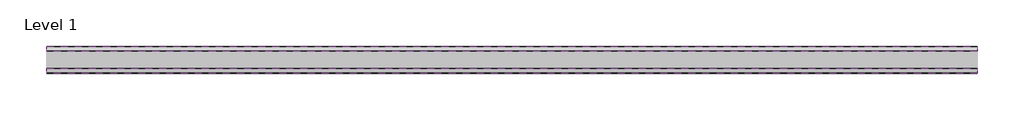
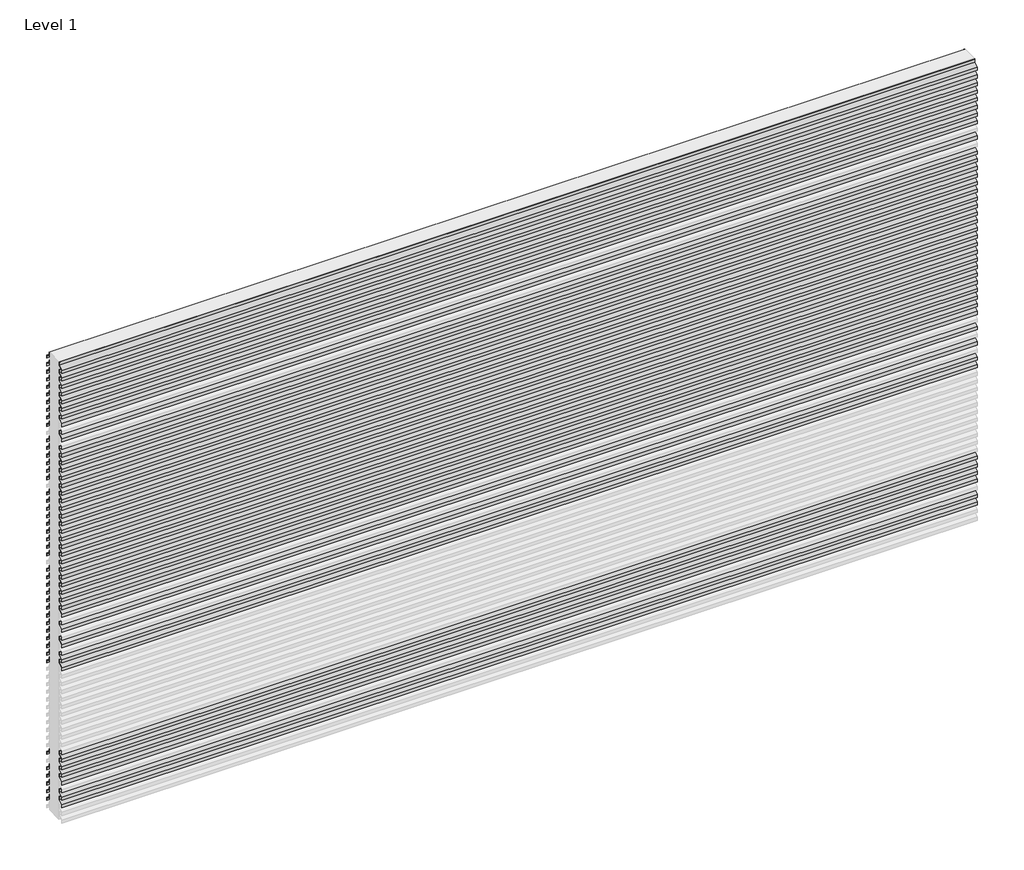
# One storey, part 39 of 47: 85 proxies.
"""IFC4 building model written with IfcOpenShell, lengths in millimetres."""

from ifc_helpers import new_model, si_unit, frame, origin, place, context, project, spatial, polyline, outline, extrude, element, save

model = new_model("IFC4")

# Units and contexts
model_context = context("Model", 3, world=origin())
ifc_project = project(units=[si_unit("LENGTHUNIT", "METRE", prefix="MILLI")], contexts=[model_context])

# Site, building, storey
site = spatial("IfcSite", under=ifc_project)
building = spatial("IfcBuilding", under=site)
storey = spatial("IfcBuildingStorey", under=building, Name="Level 1", Elevation=0.0)

# Proxies
placement = place(None, origin())
element("IfcBuildingElementProxy", 1, Name="Wall Sweeps", at=placement, inside=storey, context=model_context, shape_type="SweptSolid", body=[
    extrude(outline(polyline([(36266.8292826, 642.6), (36266.8292826, 629.1), (36265.5792826, 629.8216933), (36265.5792826, 641.8782281), (36246.4292826, 652.9345698), (36246.4292826, 666.6), (36247.6792826, 666.6), (36247.6792826, 653.6562577), (36266.8292826, 642.6)])), frame((205282.4238385, 0.0, 0.0), z_axis=(1.0, 0.0, 0.0), x_axis=(0.0, 1.0, 0.0)), (0.0, 0.0, 1.0), 3780.0),
])
element("IfcBuildingElementProxy", 2, Name="Wall Sweeps", at=placement, inside=storey, context=model_context, shape_type="SweptSolid", body=[
    extrude(outline(polyline([(36266.8292826, 42.7), (36266.8292826, 29.2), (36265.5792826, 29.9216933), (36265.5792826, 41.9782281), (36246.4292826, 53.0345698), (36246.4292826, 66.7), (36247.6792826, 66.7), (36247.6792826, 53.7562577), (36266.8292826, 42.7)])), frame((205282.4238385, 0.0, 0.0), z_axis=(1.0, 0.0, 0.0), x_axis=(0.0, 1.0, 0.0)), (0.0, 0.0, 1.0), 3780.0),
])
element("IfcBuildingElementProxy", 3, Name="Wall Sweeps", at=placement, inside=storey, context=model_context, shape_type="SweptSolid", body=[
    extrude(outline(polyline([(36156.8292826, 675.3), (36175.9792826, 686.3562577), (36175.9792826, 699.3), (36177.2292826, 699.3), (36177.2292826, 685.6345698), (36158.0792826, 674.5782281), (36158.0792826, 662.5216933), (36156.8292826, 661.8), (36156.8292826, 675.3)])), frame((205282.4238385, 0.0, 0.0), z_axis=(1.0, 0.0, 0.0), x_axis=(0.0, 1.0, 0.0)), (0.0, 0.0, 1.0), 3780.0),
])
element("IfcBuildingElementProxy", 4, Name="Wall Sweeps", at=placement, inside=storey, context=model_context, shape_type="SweptSolid", body=[
    extrude(outline(polyline([(36266.8292826, 675.9), (36266.8292826, 662.4), (36265.5792826, 663.1216933), (36265.5792826, 675.1782281), (36246.4292826, 686.2345698), (36246.4292826, 699.9), (36247.6792826, 699.9), (36247.6792826, 686.9562577), (36266.8292826, 675.9)])), frame((205282.4238385, 0.0, 0.0), z_axis=(1.0, 0.0, 0.0), x_axis=(0.0, 1.0, 0.0)), (0.0, 0.0, 1.0), 3780.0),
])
element("IfcBuildingElementProxy", 5, Name="Wall Sweeps", at=placement, inside=storey, context=model_context, shape_type="SweptSolid", body=[
    extrude(outline(polyline([(36156.8292826, 708.6), (36175.9792826, 719.6562577), (36175.9792826, 732.6), (36177.2292826, 732.6), (36177.2292826, 718.9345698), (36158.0792826, 707.8782281), (36158.0792826, 695.8216933), (36156.8292826, 695.1), (36156.8292826, 708.6)])), frame((205282.4238385, 0.0, 0.0), z_axis=(1.0, 0.0, 0.0), x_axis=(0.0, 1.0, 0.0)), (0.0, 0.0, 1.0), 3780.0),
])
element("IfcBuildingElementProxy", 6, Name="Wall Sweeps", at=placement, inside=storey, context=model_context, shape_type="SweptSolid", body=[
    extrude(outline(polyline([(36266.8292826, 709.3), (36266.8292826, 695.8), (36265.5792826, 696.5216933), (36265.5792826, 708.5782281), (36246.4292826, 719.6345698), (36246.4292826, 733.3), (36247.6792826, 733.3), (36247.6792826, 720.3562577), (36266.8292826, 709.3)])), frame((205282.4238385, 0.0, 0.0), z_axis=(1.0, 0.0, 0.0), x_axis=(0.0, 1.0, 0.0)), (0.0, 0.0, 1.0), 3780.0),
])
element("IfcBuildingElementProxy", 7, Name="Wall Sweeps", at=placement, inside=storey, context=model_context, shape_type="SweptSolid", body=[
    extrude(outline(polyline([(36266.8292826, 742.6), (36266.8292826, 729.1), (36265.5792826, 729.8216933), (36265.5792826, 741.8782281), (36246.4292826, 752.9345698), (36246.4292826, 766.6), (36247.6792826, 766.6), (36247.6792826, 753.6562577), (36266.8292826, 742.6)])), frame((205282.4238385, 0.0, 0.0), z_axis=(1.0, 0.0, 0.0), x_axis=(0.0, 1.0, 0.0)), (0.0, 0.0, 1.0), 3780.0),
])
element("IfcBuildingElementProxy", 8, Name="Wall Sweeps", at=placement, inside=storey, context=model_context, shape_type="SweptSolid", body=[
    extrude(outline(polyline([(36156.8292826, 775.2), (36175.9792826, 786.2562577), (36175.9792826, 799.2), (36177.2292826, 799.2), (36177.2292826, 785.5345698), (36158.0792826, 774.4782281), (36158.0792826, 762.4216933), (36156.8292826, 761.7), (36156.8292826, 775.2)])), frame((205282.4238385, 0.0, 0.0), z_axis=(1.0, 0.0, 0.0), x_axis=(0.0, 1.0, 0.0)), (0.0, 0.0, 1.0), 3780.0),
])
element("IfcBuildingElementProxy", 9, Name="Wall Sweeps", at=placement, inside=storey, context=model_context, shape_type="SweptSolid", body=[
    extrude(outline(polyline([(36266.8292826, 775.9), (36266.8292826, 762.4), (36265.5792826, 763.1216933), (36265.5792826, 775.1782281), (36246.4292826, 786.2345698), (36246.4292826, 799.9), (36247.6792826, 799.9), (36247.6792826, 786.9562577), (36266.8292826, 775.9)])), frame((205282.4238385, 0.0, 0.0), z_axis=(1.0, 0.0, 0.0), x_axis=(0.0, 1.0, 0.0)), (0.0, 0.0, 1.0), 3780.0),
])
element("IfcBuildingElementProxy", 10, Name="Wall Sweeps", at=placement, inside=storey, context=model_context, shape_type="SweptSolid", body=[
    extrude(outline(polyline([(36266.8292826, 809.3), (36266.8292826, 795.8), (36265.5792826, 796.5216933), (36265.5792826, 808.5782281), (36246.4292826, 819.6345698), (36246.4292826, 833.3), (36247.6792826, 833.3), (36247.6792826, 820.3562577), (36266.8292826, 809.3)])), frame((205282.4238385, 0.0, 0.0), z_axis=(1.0, 0.0, 0.0), x_axis=(0.0, 1.0, 0.0)), (0.0, 0.0, 1.0), 3780.0),
])
element("IfcBuildingElementProxy", 11, Name="Wall Sweeps", at=placement, inside=storey, context=model_context, shape_type="SweptSolid", body=[
    extrude(outline(polyline([(36156.8292826, 841.8), (36175.9792826, 852.8562577), (36175.9792826, 865.8), (36177.2292826, 865.8), (36177.2292826, 852.1345698), (36158.0792826, 841.0782281), (36158.0792826, 829.0216933), (36156.8292826, 828.3), (36156.8292826, 841.8)])), frame((205282.4238385, 0.0, 0.0), z_axis=(1.0, 0.0, 0.0), x_axis=(0.0, 1.0, 0.0)), (0.0, 0.0, 1.0), 3780.0),
])
element("IfcBuildingElementProxy", 12, Name="Wall Sweeps", at=placement, inside=storey, context=model_context, shape_type="SweptSolid", body=[
    extrude(outline(polyline([(36266.8292826, 842.6), (36266.8292826, 829.1), (36265.5792826, 829.8216933), (36265.5792826, 841.8782281), (36246.4292826, 852.9345698), (36246.4292826, 866.6), (36247.6792826, 866.6), (36247.6792826, 853.6562577), (36266.8292826, 842.6)])), frame((205282.4238385, 0.0, 0.0), z_axis=(1.0, 0.0, 0.0), x_axis=(0.0, 1.0, 0.0)), (0.0, 0.0, 1.0), 3780.0),
])
element("IfcBuildingElementProxy", 13, Name="Wall Sweeps", at=placement, inside=storey, context=model_context, shape_type="SweptSolid", body=[
    extrude(outline(polyline([(36266.8292826, 875.9), (36266.8292826, 862.4), (36265.5792826, 863.1216933), (36265.5792826, 875.1782281), (36246.4292826, 886.2345698), (36246.4292826, 899.9), (36247.6792826, 899.9), (36247.6792826, 886.9562577), (36266.8292826, 875.9)])), frame((205282.4238385, 0.0, 0.0), z_axis=(1.0, 0.0, 0.0), x_axis=(0.0, 1.0, 0.0)), (0.0, 0.0, 1.0), 3780.0),
])
element("IfcBuildingElementProxy", 14, Name="Wall Sweeps", at=placement, inside=storey, context=model_context, shape_type="SweptSolid", body=[
    extrude(outline(polyline([(36156.8292826, 908.4), (36175.9792826, 919.4562577), (36175.9792826, 932.4), (36177.2292826, 932.4), (36177.2292826, 918.7345698), (36158.0792826, 907.6782281), (36158.0792826, 895.6216933), (36156.8292826, 894.9), (36156.8292826, 908.4)])), frame((205282.4238385, 0.0, 0.0), z_axis=(1.0, 0.0, 0.0), x_axis=(0.0, 1.0, 0.0)), (0.0, 0.0, 1.0), 3780.0),
])
element("IfcBuildingElementProxy", 15, Name="Wall Sweeps", at=placement, inside=storey, context=model_context, shape_type="SweptSolid", body=[
    extrude(outline(polyline([(36266.8292826, 909.2), (36266.8292826, 895.7), (36265.5792826, 896.4216933), (36265.5792826, 908.4782281), (36246.4292826, 919.5345698), (36246.4292826, 933.2), (36247.6792826, 933.2), (36247.6792826, 920.2562577), (36266.8292826, 909.2)])), frame((205282.4238385, 0.0, 0.0), z_axis=(1.0, 0.0, 0.0), x_axis=(0.0, 1.0, 0.0)), (0.0, 0.0, 1.0), 3780.0),
])
element("IfcBuildingElementProxy", 16, Name="Wall Sweeps", at=placement, inside=storey, context=model_context, shape_type="SweptSolid", body=[
    extrude(outline(polyline([(36156.8292826, 941.7), (36175.9792826, 952.7562577), (36175.9792826, 965.7), (36177.2292826, 965.7), (36177.2292826, 952.0345698), (36158.0792826, 940.9782281), (36158.0792826, 928.9216933), (36156.8292826, 928.2), (36156.8292826, 941.7)])), frame((205282.4238385, 0.0, 0.0), z_axis=(1.0, 0.0, 0.0), x_axis=(0.0, 1.0, 0.0)), (0.0, 0.0, 1.0), 3780.0),
])
element("IfcBuildingElementProxy", 17, Name="Wall Sweeps", at=placement, inside=storey, context=model_context, shape_type="SweptSolid", body=[
    extrude(outline(polyline([(36266.8292826, 942.6), (36266.8292826, 929.1), (36265.5792826, 929.8216933), (36265.5792826, 941.8782281), (36246.4292826, 952.9345698), (36246.4292826, 966.6), (36247.6792826, 966.6), (36247.6792826, 953.6562577), (36266.8292826, 942.6)])), frame((205282.4238385, 0.0, 0.0), z_axis=(1.0, 0.0, 0.0), x_axis=(0.0, 1.0, 0.0)), (0.0, 0.0, 1.0), 3780.0),
])
element("IfcBuildingElementProxy", 18, Name="Wall Sweeps", at=placement, inside=storey, context=model_context, shape_type="SweptSolid", body=[
    extrude(outline(polyline([(36156.8292826, 975.0), (36175.9792826, 986.0562577), (36175.9792826, 999.0), (36177.2292826, 999.0), (36177.2292826, 985.3345698), (36158.0792826, 974.2782281), (36158.0792826, 962.2216933), (36156.8292826, 961.5), (36156.8292826, 975.0)])), frame((205282.4238385, 0.0, 0.0), z_axis=(1.0, 0.0, 0.0), x_axis=(0.0, 1.0, 0.0)), (0.0, 0.0, 1.0), 3780.0),
])
element("IfcBuildingElementProxy", 19, Name="Wall Sweeps", at=placement, inside=storey, context=model_context, shape_type="SweptSolid", body=[
    extrude(outline(polyline([(36266.8292826, 975.9), (36266.8292826, 962.4), (36265.5792826, 963.1216933), (36265.5792826, 975.1782281), (36246.4292826, 986.2345698), (36246.4292826, 999.9), (36247.6792826, 999.9), (36247.6792826, 986.9562577), (36266.8292826, 975.9)])), frame((205282.4238385, 0.0, 0.0), z_axis=(1.0, 0.0, 0.0), x_axis=(0.0, 1.0, 0.0)), (0.0, 0.0, 1.0), 3780.0),
])
element("IfcBuildingElementProxy", 20, Name="Wall Sweeps", at=placement, inside=storey, context=model_context, shape_type="SweptSolid", body=[
    extrude(outline(polyline([(36156.8292826, 76.0), (36175.9792826, 87.0562577), (36175.9792826, 100.0), (36177.2292826, 100.0), (36177.2292826, 86.3345698), (36158.0792826, 75.2782281), (36158.0792826, 63.2216933), (36156.8292826, 62.5), (36156.8292826, 76.0)])), frame((205282.4238385, 0.0, 0.0), z_axis=(1.0, 0.0, 0.0), x_axis=(0.0, 1.0, 0.0)), (0.0, 0.0, 1.0), 3780.0),
])
element("IfcBuildingElementProxy", 21, Name="Wall Sweeps", at=placement, inside=storey, context=model_context, shape_type="SweptSolid", body=[
    extrude(outline(polyline([(36266.8292826, 76.0), (36266.8292826, 62.5), (36265.5792826, 63.2216933), (36265.5792826, 75.2782281), (36246.4292826, 86.3345698), (36246.4292826, 100.0), (36247.6792826, 100.0), (36247.6792826, 87.0562577), (36266.8292826, 76.0)])), frame((205282.4238385, 0.0, 0.0), z_axis=(1.0, 0.0, 0.0), x_axis=(0.0, 1.0, 0.0)), (0.0, 0.0, 1.0), 3780.0),
])
element("IfcBuildingElementProxy", 22, Name="Wall Sweeps", at=placement, inside=storey, context=model_context, shape_type="SweptSolid", body=[
    extrude(outline(polyline([(36156.8292826, 1008.3), (36175.9792826, 1019.3562577), (36175.9792826, 1032.3), (36177.2292826, 1032.3), (36177.2292826, 1018.6345698), (36158.0792826, 1007.5782281), (36158.0792826, 995.5216933), (36156.8292826, 994.8), (36156.8292826, 1008.3)])), frame((205282.4238385, 0.0, 0.0), z_axis=(1.0, 0.0, 0.0), x_axis=(0.0, 1.0, 0.0)), (0.0, 0.0, 1.0), 3780.0),
])
element("IfcBuildingElementProxy", 23, Name="Wall Sweeps", at=placement, inside=storey, context=model_context, shape_type="SweptSolid", body=[
    extrude(outline(polyline([(36266.8292826, 1009.2), (36266.8292826, 995.7), (36265.5792826, 996.4216933), (36265.5792826, 1008.4782281), (36246.4292826, 1019.5345698), (36246.4292826, 1033.2), (36247.6792826, 1033.2), (36247.6792826, 1020.2562577), (36266.8292826, 1009.2)])), frame((205282.4238385, 0.0, 0.0), z_axis=(1.0, 0.0, 0.0), x_axis=(0.0, 1.0, 0.0)), (0.0, 0.0, 1.0), 3780.0),
])
element("IfcBuildingElementProxy", 24, Name="Wall Sweeps", at=placement, inside=storey, context=model_context, shape_type="SweptSolid", body=[
    extrude(outline(polyline([(36156.8292826, 1041.6), (36175.9792826, 1052.6562577), (36175.9792826, 1065.6), (36177.2292826, 1065.6), (36177.2292826, 1051.9345698), (36158.0792826, 1040.8782281), (36158.0792826, 1028.8216933), (36156.8292826, 1028.1), (36156.8292826, 1041.6)])), frame((205282.4238385, 0.0, 0.0), z_axis=(1.0, 0.0, 0.0), x_axis=(0.0, 1.0, 0.0)), (0.0, 0.0, 1.0), 3780.0),
])
element("IfcBuildingElementProxy", 25, Name="Wall Sweeps", at=placement, inside=storey, context=model_context, shape_type="SweptSolid", body=[
    extrude(outline(polyline([(36266.8292826, 1042.6), (36266.8292826, 1029.1), (36265.5792826, 1029.8216933), (36265.5792826, 1041.8782281), (36246.4292826, 1052.9345698), (36246.4292826, 1066.6), (36247.6792826, 1066.6), (36247.6792826, 1053.6562577), (36266.8292826, 1042.6)])), frame((205282.4238385, 0.0, 0.0), z_axis=(1.0, 0.0, 0.0), x_axis=(0.0, 1.0, 0.0)), (0.0, 0.0, 1.0), 3780.0),
])
element("IfcBuildingElementProxy", 26, Name="Wall Sweeps", at=placement, inside=storey, context=model_context, shape_type="SweptSolid", body=[
    extrude(outline(polyline([(36156.8292826, 1074.9), (36175.9792826, 1085.9562577), (36175.9792826, 1098.9), (36177.2292826, 1098.9), (36177.2292826, 1085.2345698), (36158.0792826, 1074.1782281), (36158.0792826, 1062.1216933), (36156.8292826, 1061.4), (36156.8292826, 1074.9)])), frame((205282.4238385, 0.0, 0.0), z_axis=(1.0, 0.0, 0.0), x_axis=(0.0, 1.0, 0.0)), (0.0, 0.0, 1.0), 3780.0),
])
element("IfcBuildingElementProxy", 27, Name="Wall Sweeps", at=placement, inside=storey, context=model_context, shape_type="SweptSolid", body=[
    extrude(outline(polyline([(36156.8292826, 1108.2), (36175.9792826, 1119.2562577), (36175.9792826, 1132.2), (36177.2292826, 1132.2), (36177.2292826, 1118.5345698), (36158.0792826, 1107.4782281), (36158.0792826, 1095.4216933), (36156.8292826, 1094.7), (36156.8292826, 1108.2)])), frame((205282.4238385, 0.0, 0.0), z_axis=(1.0, 0.0, 0.0), x_axis=(0.0, 1.0, 0.0)), (0.0, 0.0, 1.0), 3780.0),
])
element("IfcBuildingElementProxy", 28, Name="Wall Sweeps", at=placement, inside=storey, context=model_context, shape_type="SweptSolid", body=[
    extrude(outline(polyline([(36266.8292826, 1109.2), (36266.8292826, 1095.7), (36265.5792826, 1096.4216933), (36265.5792826, 1108.4782281), (36246.4292826, 1119.5345698), (36246.4292826, 1133.2), (36247.6792826, 1133.2), (36247.6792826, 1120.2562577), (36266.8292826, 1109.2)])), frame((205282.4238385, 0.0, 0.0), z_axis=(1.0, 0.0, 0.0), x_axis=(0.0, 1.0, 0.0)), (0.0, 0.0, 1.0), 3780.0),
])
element("IfcBuildingElementProxy", 29, Name="Wall Sweeps", at=placement, inside=storey, context=model_context, shape_type="SweptSolid", body=[
    extrude(outline(polyline([(36156.8292826, 1141.5), (36175.9792826, 1152.5562577), (36175.9792826, 1165.5), (36177.2292826, 1165.5), (36177.2292826, 1151.8345698), (36158.0792826, 1140.7782281), (36158.0792826, 1128.7216933), (36156.8292826, 1128.0), (36156.8292826, 1141.5)])), frame((205282.4238385, 0.0, 0.0), z_axis=(1.0, 0.0, 0.0), x_axis=(0.0, 1.0, 0.0)), (0.0, 0.0, 1.0), 3780.0),
])
element("IfcBuildingElementProxy", 30, Name="Wall Sweeps", at=placement, inside=storey, context=model_context, shape_type="SweptSolid", body=[
    extrude(outline(polyline([(36266.8292826, 1142.6), (36266.8292826, 1129.1), (36265.5792826, 1129.8216933), (36265.5792826, 1141.8782281), (36246.4292826, 1152.9345698), (36246.4292826, 1166.6), (36247.6792826, 1166.6), (36247.6792826, 1153.6562577), (36266.8292826, 1142.6)])), frame((205282.4238385, 0.0, 0.0), z_axis=(1.0, 0.0, 0.0), x_axis=(0.0, 1.0, 0.0)), (0.0, 0.0, 1.0), 3780.0),
])
element("IfcBuildingElementProxy", 31, Name="Wall Sweeps", at=placement, inside=storey, context=model_context, shape_type="SweptSolid", body=[
    extrude(outline(polyline([(36156.8292826, 1174.8), (36175.9792826, 1185.8562577), (36175.9792826, 1198.8), (36177.2292826, 1198.8), (36177.2292826, 1185.1345698), (36158.0792826, 1174.0782281), (36158.0792826, 1162.0216933), (36156.8292826, 1161.3), (36156.8292826, 1174.8)])), frame((205282.4238385, 0.0, 0.0), z_axis=(1.0, 0.0, 0.0), x_axis=(0.0, 1.0, 0.0)), (0.0, 0.0, 1.0), 3780.0),
])
element("IfcBuildingElementProxy", 32, Name="Wall Sweeps", at=placement, inside=storey, context=model_context, shape_type="SweptSolid", body=[
    extrude(outline(polyline([(36266.8292826, 1175.9), (36266.8292826, 1162.4), (36265.5792826, 1163.1216933), (36265.5792826, 1175.1782281), (36246.4292826, 1186.2345698), (36246.4292826, 1199.9), (36247.6792826, 1199.9), (36247.6792826, 1186.9562577), (36266.8292826, 1175.9)])), frame((205282.4238385, 0.0, 0.0), z_axis=(1.0, 0.0, 0.0), x_axis=(0.0, 1.0, 0.0)), (0.0, 0.0, 1.0), 3780.0),
])
element("IfcBuildingElementProxy", 33, Name="Wall Sweeps", at=placement, inside=storey, context=model_context, shape_type="SweptSolid", body=[
    extrude(outline(polyline([(36156.8292826, 1208.1), (36175.9792826, 1219.1562577), (36175.9792826, 1232.1), (36177.2292826, 1232.1), (36177.2292826, 1218.4345698), (36158.0792826, 1207.3782281), (36158.0792826, 1195.3216933), (36156.8292826, 1194.6), (36156.8292826, 1208.1)])), frame((205282.4238385, 0.0, 0.0), z_axis=(1.0, 0.0, 0.0), x_axis=(0.0, 1.0, 0.0)), (0.0, 0.0, 1.0), 3780.0),
])
element("IfcBuildingElementProxy", 34, Name="Wall Sweeps", at=placement, inside=storey, context=model_context, shape_type="SweptSolid", body=[
    extrude(outline(polyline([(36266.8292826, 1209.2), (36266.8292826, 1195.7), (36265.5792826, 1196.4216933), (36265.5792826, 1208.4782281), (36246.4292826, 1219.5345698), (36246.4292826, 1233.2), (36247.6792826, 1233.2), (36247.6792826, 1220.2562577), (36266.8292826, 1209.2)])), frame((205282.4238385, 0.0, 0.0), z_axis=(1.0, 0.0, 0.0), x_axis=(0.0, 1.0, 0.0)), (0.0, 0.0, 1.0), 3780.0),
])
element("IfcBuildingElementProxy", 35, Name="Wall Sweeps", at=placement, inside=storey, context=model_context, shape_type="SweptSolid", body=[
    extrude(outline(polyline([(36156.8292826, 1241.4), (36175.9792826, 1252.4562577), (36175.9792826, 1265.4), (36177.2292826, 1265.4), (36177.2292826, 1251.7345698), (36158.0792826, 1240.6782281), (36158.0792826, 1228.6216933), (36156.8292826, 1227.9), (36156.8292826, 1241.4)])), frame((205282.4238385, 0.0, 0.0), z_axis=(1.0, 0.0, 0.0), x_axis=(0.0, 1.0, 0.0)), (0.0, 0.0, 1.0), 3780.0),
])
element("IfcBuildingElementProxy", 36, Name="Wall Sweeps", at=placement, inside=storey, context=model_context, shape_type="SweptSolid", body=[
    extrude(outline(polyline([(36266.8292826, 1242.5), (36266.8292826, 1229.0), (36265.5792826, 1229.7216933), (36265.5792826, 1241.7782281), (36246.4292826, 1252.8345698), (36246.4292826, 1266.5), (36247.6792826, 1266.5), (36247.6792826, 1253.5562577), (36266.8292826, 1242.5)])), frame((205282.4238385, 0.0, 0.0), z_axis=(1.0, 0.0, 0.0), x_axis=(0.0, 1.0, 0.0)), (0.0, 0.0, 1.0), 3780.0),
])
element("IfcBuildingElementProxy", 37, Name="Wall Sweeps", at=placement, inside=storey, context=model_context, shape_type="SweptSolid", body=[
    extrude(outline(polyline([(36156.8292826, 1274.7), (36175.9792826, 1285.7562577), (36175.9792826, 1298.7), (36177.2292826, 1298.7), (36177.2292826, 1285.0345698), (36158.0792826, 1273.9782281), (36158.0792826, 1261.9216933), (36156.8292826, 1261.2), (36156.8292826, 1274.7)])), frame((205282.4238385, 0.0, 0.0), z_axis=(1.0, 0.0, 0.0), x_axis=(0.0, 1.0, 0.0)), (0.0, 0.0, 1.0), 3780.0),
])
element("IfcBuildingElementProxy", 38, Name="Wall Sweeps", at=placement, inside=storey, context=model_context, shape_type="SweptSolid", body=[
    extrude(outline(polyline([(36266.8292826, 1275.9), (36266.8292826, 1262.4), (36265.5792826, 1263.1216933), (36265.5792826, 1275.1782281), (36246.4292826, 1286.2345698), (36246.4292826, 1299.9), (36247.6792826, 1299.9), (36247.6792826, 1286.9562577), (36266.8292826, 1275.9)])), frame((205282.4238385, 0.0, 0.0), z_axis=(1.0, 0.0, 0.0), x_axis=(0.0, 1.0, 0.0)), (0.0, 0.0, 1.0), 3780.0),
])
element("IfcBuildingElementProxy", 39, Name="Wall Sweeps", at=placement, inside=storey, context=model_context, shape_type="SweptSolid", body=[
    extrude(outline(polyline([(36156.8292826, 1308.0), (36175.9792826, 1319.0562577), (36175.9792826, 1332.0), (36177.2292826, 1332.0), (36177.2292826, 1318.3345698), (36158.0792826, 1307.2782281), (36158.0792826, 1295.2216933), (36156.8292826, 1294.5), (36156.8292826, 1308.0)])), frame((205282.4238385, 0.0, 0.0), z_axis=(1.0, 0.0, 0.0), x_axis=(0.0, 1.0, 0.0)), (0.0, 0.0, 1.0), 3780.0),
])
element("IfcBuildingElementProxy", 40, Name="Wall Sweeps", at=placement, inside=storey, context=model_context, shape_type="SweptSolid", body=[
    extrude(outline(polyline([(36156.8292826, 109.2), (36175.9792826, 120.2562577), (36175.9792826, 133.2), (36177.2292826, 133.2), (36177.2292826, 119.5345698), (36158.0792826, 108.4782281), (36158.0792826, 96.4216933), (36156.8292826, 95.7), (36156.8292826, 109.2)])), frame((205282.4238385, 0.0, 0.0), z_axis=(1.0, 0.0, 0.0), x_axis=(0.0, 1.0, 0.0)), (0.0, 0.0, 1.0), 3780.0),
])
element("IfcBuildingElementProxy", 41, Name="Wall Sweeps", at=placement, inside=storey, context=model_context, shape_type="SweptSolid", body=[
    extrude(outline(polyline([(36266.8292826, 109.3), (36266.8292826, 95.8), (36265.5792826, 96.5216933), (36265.5792826, 108.5782281), (36246.4292826, 119.6345698), (36246.4292826, 133.3), (36247.6792826, 133.3), (36247.6792826, 120.3562577), (36266.8292826, 109.3)])), frame((205282.4238385, 0.0, 0.0), z_axis=(1.0, 0.0, 0.0), x_axis=(0.0, 1.0, 0.0)), (0.0, 0.0, 1.0), 3780.0),
])
element("IfcBuildingElementProxy", 42, Name="Wall Sweeps", at=placement, inside=storey, context=model_context, shape_type="SweptSolid", body=[
    extrude(outline(polyline([(36266.8292826, 1309.2), (36266.8292826, 1295.7), (36265.5792826, 1296.4216933), (36265.5792826, 1308.4782281), (36246.4292826, 1319.5345698), (36246.4292826, 1333.2), (36247.6792826, 1333.2), (36247.6792826, 1320.2562577), (36266.8292826, 1309.2)])), frame((205282.4238385, 0.0, 0.0), z_axis=(1.0, 0.0, 0.0), x_axis=(0.0, 1.0, 0.0)), (0.0, 0.0, 1.0), 3780.0),
])
element("IfcBuildingElementProxy", 43, Name="Wall Sweeps", at=placement, inside=storey, context=model_context, shape_type="SweptSolid", body=[
    extrude(outline(polyline([(36156.8292826, 1341.3), (36175.9792826, 1352.3562577), (36175.9792826, 1365.3), (36177.2292826, 1365.3), (36177.2292826, 1351.6345698), (36158.0792826, 1340.5782281), (36158.0792826, 1328.5216933), (36156.8292826, 1327.8), (36156.8292826, 1341.3)])), frame((205282.4238385, 0.0, 0.0), z_axis=(1.0, 0.0, 0.0), x_axis=(0.0, 1.0, 0.0)), (0.0, 0.0, 1.0), 3780.0),
])
element("IfcBuildingElementProxy", 44, Name="Wall Sweeps", at=placement, inside=storey, context=model_context, shape_type="SweptSolid", body=[
    extrude(outline(polyline([(36266.8292826, 1342.5), (36266.8292826, 1329.0), (36265.5792826, 1329.7216933), (36265.5792826, 1341.7782281), (36246.4292826, 1352.8345698), (36246.4292826, 1366.5), (36247.6792826, 1366.5), (36247.6792826, 1353.5562577), (36266.8292826, 1342.5)])), frame((205282.4238385, 0.0, 0.0), z_axis=(1.0, 0.0, 0.0), x_axis=(0.0, 1.0, 0.0)), (0.0, 0.0, 1.0), 3780.0),
])
element("IfcBuildingElementProxy", 45, Name="Wall Sweeps", at=placement, inside=storey, context=model_context, shape_type="SweptSolid", body=[
    extrude(outline(polyline([(36156.8292826, 1374.6), (36175.9792826, 1385.6562577), (36175.9792826, 1398.6), (36177.2292826, 1398.6), (36177.2292826, 1384.9345698), (36158.0792826, 1373.8782281), (36158.0792826, 1361.8216933), (36156.8292826, 1361.1), (36156.8292826, 1374.6)])), frame((205282.4238385, 0.0, 0.0), z_axis=(1.0, 0.0, 0.0), x_axis=(0.0, 1.0, 0.0)), (0.0, 0.0, 1.0), 3780.0),
])
element("IfcBuildingElementProxy", 46, Name="Wall Sweeps", at=placement, inside=storey, context=model_context, shape_type="SweptSolid", body=[
    extrude(outline(polyline([(36266.8292826, 1375.9), (36266.8292826, 1362.4), (36265.5792826, 1363.1216933), (36265.5792826, 1375.1782281), (36246.4292826, 1386.2345698), (36246.4292826, 1399.9), (36247.6792826, 1399.9), (36247.6792826, 1386.9562577), (36266.8292826, 1375.9)])), frame((205282.4238385, 0.0, 0.0), z_axis=(1.0, 0.0, 0.0), x_axis=(0.0, 1.0, 0.0)), (0.0, 0.0, 1.0), 3780.0),
])
element("IfcBuildingElementProxy", 47, Name="Wall Sweeps", at=placement, inside=storey, context=model_context, shape_type="SweptSolid", body=[
    extrude(outline(polyline([(36156.8292826, 1407.9), (36175.9792826, 1418.9562577), (36175.9792826, 1431.9), (36177.2292826, 1431.9), (36177.2292826, 1418.2345698), (36158.0792826, 1407.1782281), (36158.0792826, 1395.1216933), (36156.8292826, 1394.4), (36156.8292826, 1407.9)])), frame((205282.4238385, 0.0, 0.0), z_axis=(1.0, 0.0, 0.0), x_axis=(0.0, 1.0, 0.0)), (0.0, 0.0, 1.0), 3780.0),
])
element("IfcBuildingElementProxy", 48, Name="Wall Sweeps", at=placement, inside=storey, context=model_context, shape_type="SweptSolid", body=[
    extrude(outline(polyline([(36156.8292826, 1441.2), (36175.9792826, 1452.2562577), (36175.9792826, 1465.2), (36177.2292826, 1465.2), (36177.2292826, 1451.5345698), (36158.0792826, 1440.4782281), (36158.0792826, 1428.4216933), (36156.8292826, 1427.7), (36156.8292826, 1441.2)])), frame((205282.4238385, 0.0, 0.0), z_axis=(1.0, 0.0, 0.0), x_axis=(0.0, 1.0, 0.0)), (0.0, 0.0, 1.0), 3780.0),
])
element("IfcBuildingElementProxy", 49, Name="Wall Sweeps", at=placement, inside=storey, context=model_context, shape_type="SweptSolid", body=[
    extrude(outline(polyline([(36266.8292826, 1442.5), (36266.8292826, 1429.0), (36265.5792826, 1429.7216933), (36265.5792826, 1441.7782281), (36246.4292826, 1452.8345698), (36246.4292826, 1466.5), (36247.6792826, 1466.5), (36247.6792826, 1453.5562577), (36266.8292826, 1442.5)])), frame((205282.4238385, 0.0, 0.0), z_axis=(1.0, 0.0, 0.0), x_axis=(0.0, 1.0, 0.0)), (0.0, 0.0, 1.0), 3780.0),
])
element("IfcBuildingElementProxy", 50, Name="Wall Sweeps", at=placement, inside=storey, context=model_context, shape_type="SweptSolid", body=[
    extrude(outline(polyline([(36156.8292826, 1474.5), (36175.9792826, 1485.5562577), (36175.9792826, 1498.5), (36177.2292826, 1498.5), (36177.2292826, 1484.8345698), (36158.0792826, 1473.7782281), (36158.0792826, 1461.7216933), (36156.8292826, 1461.0), (36156.8292826, 1474.5)])), frame((205282.4238385, 0.0, 0.0), z_axis=(1.0, 0.0, 0.0), x_axis=(0.0, 1.0, 0.0)), (0.0, 0.0, 1.0), 3780.0),
])
element("IfcBuildingElementProxy", 51, Name="Wall Sweeps", at=placement, inside=storey, context=model_context, shape_type="SweptSolid", body=[
    extrude(outline(polyline([(36266.8292826, 1474.5), (36266.8292826, 1461.0), (36265.5792826, 1461.7216933), (36265.5792826, 1473.7782281), (36246.4292826, 1484.8345698), (36246.4292826, 1498.5), (36247.6792826, 1498.5), (36247.6792826, 1485.5562577), (36266.8292826, 1474.5)])), frame((205282.4238385, 0.0, 0.0), z_axis=(1.0, 0.0, 0.0), x_axis=(0.0, 1.0, 0.0)), (0.0, 0.0, 1.0), 3780.0),
])
element("IfcBuildingElementProxy", 52, Name="Wall Sweeps", at=placement, inside=storey, context=model_context, shape_type="SweptSolid", body=[
    extrude(outline(polyline([(36156.8292826, 1507.8), (36175.9792826, 1518.8562577), (36175.9792826, 1531.8), (36177.2292826, 1531.8), (36177.2292826, 1518.1345698), (36158.0792826, 1507.0782281), (36158.0792826, 1495.0216933), (36156.8292826, 1494.3), (36156.8292826, 1507.8)])), frame((205282.4238385, 0.0, 0.0), z_axis=(1.0, 0.0, 0.0), x_axis=(0.0, 1.0, 0.0)), (0.0, 0.0, 1.0), 3780.0),
])
element("IfcBuildingElementProxy", 53, Name="Wall Sweeps", at=placement, inside=storey, context=model_context, shape_type="SweptSolid", body=[
    extrude(outline(polyline([(36266.8292826, 1507.8), (36266.8292826, 1494.3), (36265.5792826, 1495.0216933), (36265.5792826, 1507.0782281), (36246.4292826, 1518.1345698), (36246.4292826, 1531.8), (36247.6792826, 1531.8), (36247.6792826, 1518.8562577), (36266.8292826, 1507.8)])), frame((205282.4238385, 0.0, 0.0), z_axis=(1.0, 0.0, 0.0), x_axis=(0.0, 1.0, 0.0)), (0.0, 0.0, 1.0), 3780.0),
])
element("IfcBuildingElementProxy", 54, Name="Wall Sweeps", at=placement, inside=storey, context=model_context, shape_type="SweptSolid", body=[
    extrude(outline(polyline([(36156.8292826, 1541.1), (36175.9792826, 1552.1562577), (36175.9792826, 1565.1), (36177.2292826, 1565.1), (36177.2292826, 1551.4345698), (36158.0792826, 1540.3782281), (36158.0792826, 1528.3216933), (36156.8292826, 1527.6), (36156.8292826, 1541.1)])), frame((205282.4238385, 0.0, 0.0), z_axis=(1.0, 0.0, 0.0), x_axis=(0.0, 1.0, 0.0)), (0.0, 0.0, 1.0), 3780.0),
])
element("IfcBuildingElementProxy", 55, Name="Wall Sweeps", at=placement, inside=storey, context=model_context, shape_type="SweptSolid", body=[
    extrude(outline(polyline([(36266.8292826, 1541.1), (36266.8292826, 1527.6), (36265.5792826, 1528.3216933), (36265.5792826, 1540.3782281), (36246.4292826, 1551.4345698), (36246.4292826, 1565.1), (36247.6792826, 1565.1), (36247.6792826, 1552.1562577), (36266.8292826, 1541.1)])), frame((205282.4238385, 0.0, 0.0), z_axis=(1.0, 0.0, 0.0), x_axis=(0.0, 1.0, 0.0)), (0.0, 0.0, 1.0), 3780.0),
])
element("IfcBuildingElementProxy", 56, Name="Wall Sweeps", at=placement, inside=storey, context=model_context, shape_type="SweptSolid", body=[
    extrude(outline(polyline([(36156.8292826, 1574.4), (36175.9792826, 1585.4562577), (36175.9792826, 1598.4), (36177.2292826, 1598.4), (36177.2292826, 1584.7345698), (36158.0792826, 1573.6782281), (36158.0792826, 1561.6216933), (36156.8292826, 1560.9), (36156.8292826, 1574.4)])), frame((205282.4238385, 0.0, 0.0), z_axis=(1.0, 0.0, 0.0), x_axis=(0.0, 1.0, 0.0)), (0.0, 0.0, 1.0), 3780.0),
])
element("IfcBuildingElementProxy", 57, Name="Wall Sweeps", at=placement, inside=storey, context=model_context, shape_type="SweptSolid", body=[
    extrude(outline(polyline([(36266.8292826, 1574.4), (36266.8292826, 1560.9), (36265.5792826, 1561.6216933), (36265.5792826, 1573.6782281), (36246.4292826, 1584.7345698), (36246.4292826, 1598.4), (36247.6792826, 1598.4), (36247.6792826, 1585.4562577), (36266.8292826, 1574.4)])), frame((205282.4238385, 0.0, 0.0), z_axis=(1.0, 0.0, 0.0), x_axis=(0.0, 1.0, 0.0)), (0.0, 0.0, 1.0), 3780.0),
])
element("IfcBuildingElementProxy", 58, Name="Wall Sweeps", at=placement, inside=storey, context=model_context, shape_type="SweptSolid", body=[
    extrude(outline(polyline([(36156.8292826, 1607.7), (36175.9792826, 1618.7562577), (36175.9792826, 1631.7), (36177.2292826, 1631.7), (36177.2292826, 1618.0345698), (36158.0792826, 1606.9782281), (36158.0792826, 1594.9216933), (36156.8292826, 1594.2), (36156.8292826, 1607.7)])), frame((205282.4238385, 0.0, 0.0), z_axis=(1.0, 0.0, 0.0), x_axis=(0.0, 1.0, 0.0)), (0.0, 0.0, 1.0), 3780.0),
])
element("IfcBuildingElementProxy", 59, Name="Wall Sweeps", at=placement, inside=storey, context=model_context, shape_type="SweptSolid", body=[
    extrude(outline(polyline([(36266.8292826, 1607.7), (36266.8292826, 1594.2), (36265.5792826, 1594.9216933), (36265.5792826, 1606.9782281), (36246.4292826, 1618.0345698), (36246.4292826, 1631.7), (36247.6792826, 1631.7), (36247.6792826, 1618.7562577), (36266.8292826, 1607.7)])), frame((205282.4238385, 0.0, 0.0), z_axis=(1.0, 0.0, 0.0), x_axis=(0.0, 1.0, 0.0)), (0.0, 0.0, 1.0), 3780.0),
])
element("IfcBuildingElementProxy", 60, Name="Wall Sweeps", at=placement, inside=storey, context=model_context, shape_type="SweptSolid", body=[
    extrude(outline(polyline([(36266.8292826, 142.7), (36266.8292826, 129.2), (36265.5792826, 129.9216933), (36265.5792826, 141.9782281), (36246.4292826, 153.0345698), (36246.4292826, 166.7), (36247.6792826, 166.7), (36247.6792826, 153.7562577), (36266.8292826, 142.7)])), frame((205282.4238385, 0.0, 0.0), z_axis=(1.0, 0.0, 0.0), x_axis=(0.0, 1.0, 0.0)), (0.0, 0.0, 1.0), 3780.0),
])
element("IfcBuildingElementProxy", 61, Name="Wall Sweeps", at=placement, inside=storey, context=model_context, shape_type="SweptSolid", body=[
    extrude(outline(polyline([(36156.8292826, 1674.3), (36175.9792826, 1685.3562577), (36175.9792826, 1698.3), (36177.2292826, 1698.3), (36177.2292826, 1684.6345698), (36158.0792826, 1673.5782281), (36158.0792826, 1661.5216933), (36156.8292826, 1660.8), (36156.8292826, 1674.3)])), frame((205282.4238385, 0.0, 0.0), z_axis=(1.0, 0.0, 0.0), x_axis=(0.0, 1.0, 0.0)), (0.0, 0.0, 1.0), 3780.0),
])
element("IfcBuildingElementProxy", 62, Name="Wall Sweeps", at=placement, inside=storey, context=model_context, shape_type="SweptSolid", body=[
    extrude(outline(polyline([(36266.8292826, 1674.3), (36266.8292826, 1660.8), (36265.5792826, 1661.5216933), (36265.5792826, 1673.5782281), (36246.4292826, 1684.6345698), (36246.4292826, 1698.3), (36247.6792826, 1698.3), (36247.6792826, 1685.3562577), (36266.8292826, 1674.3)])), frame((205282.4238385, 0.0, 0.0), z_axis=(1.0, 0.0, 0.0), x_axis=(0.0, 1.0, 0.0)), (0.0, 0.0, 1.0), 3780.0),
])
element("IfcBuildingElementProxy", 63, Name="Wall Sweeps", at=placement, inside=storey, context=model_context, shape_type="SweptSolid", body=[
    extrude(outline(polyline([(36266.8292826, 1707.7), (36266.8292826, 1694.2), (36265.5792826, 1694.9216933), (36265.5792826, 1706.9782281), (36246.4292826, 1718.0345698), (36246.4292826, 1731.7), (36247.6792826, 1731.7), (36247.6792826, 1718.7562577), (36266.8292826, 1707.7)])), frame((205282.4238385, 0.0, 0.0), z_axis=(1.0, 0.0, 0.0), x_axis=(0.0, 1.0, 0.0)), (0.0, 0.0, 1.0), 3780.0),
])
element("IfcBuildingElementProxy", 64, Name="Wall Sweeps", at=placement, inside=storey, context=model_context, shape_type="SweptSolid", body=[
    extrude(outline(polyline([(36156.8292826, 1740.9), (36175.9792826, 1751.9562577), (36175.9792826, 1764.9), (36177.2292826, 1764.9), (36177.2292826, 1751.2345698), (36158.0792826, 1740.1782281), (36158.0792826, 1728.1216933), (36156.8292826, 1727.4), (36156.8292826, 1740.9)])), frame((205282.4238385, 0.0, 0.0), z_axis=(1.0, 0.0, 0.0), x_axis=(0.0, 1.0, 0.0)), (0.0, 0.0, 1.0), 3780.0),
])
element("IfcBuildingElementProxy", 65, Name="Wall Sweeps", at=placement, inside=storey, context=model_context, shape_type="SweptSolid", body=[
    extrude(outline(polyline([(36266.8292826, 1740.9), (36266.8292826, 1727.4), (36265.5792826, 1728.1216933), (36265.5792826, 1740.1782281), (36246.4292826, 1751.2345698), (36246.4292826, 1764.9), (36247.6792826, 1764.9), (36247.6792826, 1751.9562577), (36266.8292826, 1740.9)])), frame((205282.4238385, 0.0, 0.0), z_axis=(1.0, 0.0, 0.0), x_axis=(0.0, 1.0, 0.0)), (0.0, 0.0, 1.0), 3780.0),
])
element("IfcBuildingElementProxy", 66, Name="Wall Sweeps", at=placement, inside=storey, context=model_context, shape_type="SweptSolid", body=[
    extrude(outline(polyline([(36156.8292826, 1774.2), (36175.9792826, 1785.2562577), (36175.9792826, 1798.2), (36177.2292826, 1798.2), (36177.2292826, 1784.5345698), (36158.0792826, 1773.4782281), (36158.0792826, 1761.4216933), (36156.8292826, 1760.7), (36156.8292826, 1774.2)])), frame((205282.4238385, 0.0, 0.0), z_axis=(1.0, 0.0, 0.0), x_axis=(0.0, 1.0, 0.0)), (0.0, 0.0, 1.0), 3780.0),
])
element("IfcBuildingElementProxy", 67, Name="Wall Sweeps", at=placement, inside=storey, context=model_context, shape_type="SweptSolid", body=[
    extrude(outline(polyline([(36266.8292826, 1774.2), (36266.8292826, 1760.7), (36265.5792826, 1761.4216933), (36265.5792826, 1773.4782281), (36246.4292826, 1784.5345698), (36246.4292826, 1798.2), (36247.6792826, 1798.2), (36247.6792826, 1785.2562577), (36266.8292826, 1774.2)])), frame((205282.4238385, 0.0, 0.0), z_axis=(1.0, 0.0, 0.0), x_axis=(0.0, 1.0, 0.0)), (0.0, 0.0, 1.0), 3780.0),
])
element("IfcBuildingElementProxy", 68, Name="Wall Sweeps", at=placement, inside=storey, context=model_context, shape_type="SweptSolid", body=[
    extrude(outline(polyline([(36156.8292826, 1807.5), (36175.9792826, 1818.5562577), (36175.9792826, 1831.5), (36177.2292826, 1831.5), (36177.2292826, 1817.8345698), (36158.0792826, 1806.7782281), (36158.0792826, 1794.7216933), (36156.8292826, 1794.0), (36156.8292826, 1807.5)])), frame((205282.4238385, 0.0, 0.0), z_axis=(1.0, 0.0, 0.0), x_axis=(0.0, 1.0, 0.0)), (0.0, 0.0, 1.0), 3780.0),
])
element("IfcBuildingElementProxy", 69, Name="Wall Sweeps", at=placement, inside=storey, context=model_context, shape_type="SweptSolid", body=[
    extrude(outline(polyline([(36266.8292826, 1807.5), (36266.8292826, 1794.0), (36265.5792826, 1794.7216933), (36265.5792826, 1806.7782281), (36246.4292826, 1817.8345698), (36246.4292826, 1831.5), (36247.6792826, 1831.5), (36247.6792826, 1818.5562577), (36266.8292826, 1807.5)])), frame((205282.4238385, 0.0, 0.0), z_axis=(1.0, 0.0, 0.0), x_axis=(0.0, 1.0, 0.0)), (0.0, 0.0, 1.0), 3780.0),
])
element("IfcBuildingElementProxy", 70, Name="Wall Sweeps", at=placement, inside=storey, context=model_context, shape_type="SweptSolid", body=[
    extrude(outline(polyline([(36156.8292826, 1840.8), (36175.9792826, 1851.8562577), (36175.9792826, 1864.8), (36177.2292826, 1864.8), (36177.2292826, 1851.1345698), (36158.0792826, 1840.0782281), (36158.0792826, 1828.0216933), (36156.8292826, 1827.3), (36156.8292826, 1840.8)])), frame((205282.4238385, 0.0, 0.0), z_axis=(1.0, 0.0, 0.0), x_axis=(0.0, 1.0, 0.0)), (0.0, 0.0, 1.0), 3780.0),
])
element("IfcBuildingElementProxy", 71, Name="Wall Sweeps", at=placement, inside=storey, context=model_context, shape_type="SweptSolid", body=[
    extrude(outline(polyline([(36266.8292826, 1840.8), (36266.8292826, 1827.3), (36265.5792826, 1828.0216933), (36265.5792826, 1840.0782281), (36246.4292826, 1851.1345698), (36246.4292826, 1864.8), (36247.6792826, 1864.8), (36247.6792826, 1851.8562577), (36266.8292826, 1840.8)])), frame((205282.4238385, 0.0, 0.0), z_axis=(1.0, 0.0, 0.0), x_axis=(0.0, 1.0, 0.0)), (0.0, 0.0, 1.0), 3780.0),
])
element("IfcBuildingElementProxy", 72, Name="Wall Sweeps", at=placement, inside=storey, context=model_context, shape_type="SweptSolid", body=[
    extrude(outline(polyline([(36156.8292826, 1874.1), (36175.9792826, 1885.1562577), (36175.9792826, 1898.1), (36177.2292826, 1898.1), (36177.2292826, 1884.4345698), (36158.0792826, 1873.3782281), (36158.0792826, 1861.3216933), (36156.8292826, 1860.6), (36156.8292826, 1874.1)])), frame((205282.4238385, 0.0, 0.0), z_axis=(1.0, 0.0, 0.0), x_axis=(0.0, 1.0, 0.0)), (0.0, 0.0, 1.0), 3780.0),
])
element("IfcBuildingElementProxy", 73, Name="Wall Sweeps", at=placement, inside=storey, context=model_context, shape_type="SweptSolid", body=[
    extrude(outline(polyline([(36266.8292826, 1874.1), (36266.8292826, 1860.6), (36265.5792826, 1861.3216933), (36265.5792826, 1873.3782281), (36246.4292826, 1884.4345698), (36246.4292826, 1898.1), (36247.6792826, 1898.1), (36247.6792826, 1885.1562577), (36266.8292826, 1874.1)])), frame((205282.4238385, 0.0, 0.0), z_axis=(1.0, 0.0, 0.0), x_axis=(0.0, 1.0, 0.0)), (0.0, 0.0, 1.0), 3780.0),
])
element("IfcBuildingElementProxy", 74, Name="Wall Sweeps", at=placement, inside=storey, context=model_context, shape_type="SweptSolid", body=[
    extrude(outline(polyline([(36156.8292826, 1907.4), (36175.9792826, 1918.4562577), (36175.9792826, 1931.4), (36177.2292826, 1931.4), (36177.2292826, 1917.7345698), (36158.0792826, 1906.6782281), (36158.0792826, 1894.6216933), (36156.8292826, 1893.9), (36156.8292826, 1907.4)])), frame((205282.4238385, 0.0, 0.0), z_axis=(1.0, 0.0, 0.0), x_axis=(0.0, 1.0, 0.0)), (0.0, 0.0, 1.0), 3780.0),
])
element("IfcBuildingElementProxy", 75, Name="Wall Sweeps", at=placement, inside=storey, context=model_context, shape_type="SweptSolid", body=[
    extrude(outline(polyline([(36266.8292826, 1907.4), (36266.8292826, 1893.9), (36265.5792826, 1894.6216933), (36265.5792826, 1906.6782281), (36246.4292826, 1917.7345698), (36246.4292826, 1931.4), (36247.6792826, 1931.4), (36247.6792826, 1918.4562577), (36266.8292826, 1907.4)])), frame((205282.4238385, 0.0, 0.0), z_axis=(1.0, 0.0, 0.0), x_axis=(0.0, 1.0, 0.0)), (0.0, 0.0, 1.0), 3780.0),
])
element("IfcBuildingElementProxy", 76, Name="Wall Sweeps", at=placement, inside=storey, context=model_context, shape_type="SweptSolid", body=[
    extrude(outline(polyline([(36156.8292826, 1940.7), (36175.9792826, 1951.7562577), (36175.9792826, 1964.7), (36177.2292826, 1964.7), (36177.2292826, 1951.0345698), (36158.0792826, 1939.9782281), (36158.0792826, 1927.9216933), (36156.8292826, 1927.2), (36156.8292826, 1940.7)])), frame((205282.4238385, 0.0, 0.0), z_axis=(1.0, 0.0, 0.0), x_axis=(0.0, 1.0, 0.0)), (0.0, 0.0, 1.0), 3780.0),
])
element("IfcBuildingElementProxy", 77, Name="Wall Sweeps", at=placement, inside=storey, context=model_context, shape_type="SweptSolid", body=[
    extrude(outline(polyline([(36265.8292826, 1940.7), (36265.8292826, 1927.2), (36264.5792826, 1927.9216933), (36264.5792826, 1939.9782281), (36245.4292826, 1951.0345698), (36245.4292826, 1964.7), (36246.6792826, 1964.7), (36246.6792826, 1951.7562577), (36265.8292826, 1940.7)])), frame((205282.4238385, 0.0, 0.0), z_axis=(1.0, 0.0, 0.0), x_axis=(0.0, 1.0, 0.0)), (0.0, 0.0, 1.0), 3780.0),
])
element("IfcBuildingElementProxy", 78, Name="Wall Sweeps", at=placement, inside=storey, context=model_context, shape_type="SweptSolid", body=[
    extrude(outline(polyline([(36156.8292826, 1974.0), (36175.9792826, 1985.0562577), (36175.9792826, 1998.0), (36177.2292826, 1998.0), (36177.2292826, 1984.3345698), (36158.0792826, 1973.2782281), (36158.0792826, 1961.2216933), (36156.8292826, 1960.5), (36156.8292826, 1974.0)])), frame((205282.4238385, 0.0, 0.0), z_axis=(1.0, 0.0, 0.0), x_axis=(0.0, 1.0, 0.0)), (0.0, 0.0, 1.0), 3780.0),
])
element("IfcBuildingElementProxy", 79, Name="Wall Sweeps", at=placement, inside=storey, context=model_context, shape_type="SweptSolid", body=[
    extrude(outline(polyline([(36266.8292826, 1974.0), (36266.8292826, 1960.5), (36265.5792826, 1961.2216933), (36265.5792826, 1973.2782281), (36246.4292826, 1984.3345698), (36246.4292826, 1998.0), (36247.6792826, 1998.0), (36247.6792826, 1985.0562577), (36266.8292826, 1974.0)])), frame((205282.4238385, 0.0, 0.0), z_axis=(1.0, 0.0, 0.0), x_axis=(0.0, 1.0, 0.0)), (0.0, 0.0, 1.0), 3780.0),
])
element("IfcBuildingElementProxy", 80, Name="Wall Sweeps", at=placement, inside=storey, context=model_context, shape_type="SweptSolid", body=[
    extrude(outline(polyline([(36156.8292826, 176.0), (36175.9792826, 187.0562577), (36175.9792826, 200.0), (36177.2292826, 200.0), (36177.2292826, 186.3345698), (36158.0792826, 175.2782281), (36158.0792826, 163.2216933), (36156.8292826, 162.5), (36156.8292826, 176.0)])), frame((205282.4238385, 0.0, 0.0), z_axis=(1.0, 0.0, 0.0), x_axis=(0.0, 1.0, 0.0)), (0.0, 0.0, 1.0), 3780.0),
])
element("IfcBuildingElementProxy", 81, Name="Wall Sweeps", at=placement, inside=storey, context=model_context, shape_type="SweptSolid", body=[
    extrude(outline(polyline([(36266.8292826, 176.0), (36266.8292826, 162.5), (36265.5792826, 163.2216933), (36265.5792826, 175.2782281), (36246.4292826, 186.3345698), (36246.4292826, 200.0), (36247.6792826, 200.0), (36247.6792826, 187.0562577), (36266.8292826, 176.0)])), frame((205282.4238385, 0.0, 0.0), z_axis=(1.0, 0.0, 0.0), x_axis=(0.0, 1.0, 0.0)), (0.0, 0.0, 1.0), 3780.0),
])
element("IfcBuildingElementProxy", 82, Name="Wall Sweeps", at=placement, inside=storey, context=model_context, shape_type="SweptSolid", body=[
    extrude(outline(polyline([(36156.8292826, 209.1), (36175.9792826, 220.1562577), (36175.9792826, 233.1), (36177.2292826, 233.1), (36177.2292826, 219.4345698), (36158.0792826, 208.3782281), (36158.0792826, 196.3216933), (36156.8292826, 195.6), (36156.8292826, 209.1)])), frame((205282.4238385, 0.0, 0.0), z_axis=(1.0, 0.0, 0.0), x_axis=(0.0, 1.0, 0.0)), (0.0, 0.0, 1.0), 3780.0),
])
element("IfcBuildingElementProxy", 83, Name="Wall Sweeps", at=placement, inside=storey, context=model_context, shape_type="SweptSolid", body=[
    extrude(outline(polyline([(36156.8292826, 242.4), (36175.9792826, 253.4562577), (36175.9792826, 266.4), (36177.2292826, 266.4), (36177.2292826, 252.7345698), (36158.0792826, 241.6782281), (36158.0792826, 229.6216933), (36156.8292826, 228.9), (36156.8292826, 242.4)])), frame((205282.4238385, 0.0, 0.0), z_axis=(1.0, 0.0, 0.0), x_axis=(0.0, 1.0, 0.0)), (0.0, 0.0, 1.0), 3780.0),
])
element("IfcBuildingElementProxy", 84, Name="Wall Sweeps", at=placement, inside=storey, context=model_context, shape_type="SweptSolid", body=[
    extrude(outline(polyline([(36266.8292826, 242.6), (36266.8292826, 229.1), (36265.5792826, 229.8216933), (36265.5792826, 241.8782281), (36246.4292826, 252.9345698), (36246.4292826, 266.6), (36247.6792826, 266.6), (36247.6792826, 253.6562577), (36266.8292826, 242.6)])), frame((205282.4238385, 0.0, 0.0), z_axis=(1.0, 0.0, 0.0), x_axis=(0.0, 1.0, 0.0)), (0.0, 0.0, 1.0), 3780.0),
])
element("IfcBuildingElementProxy", 85, Name="Wall Sweeps", at=placement, inside=storey, context=model_context, shape_type="SweptSolid", body=[
    extrude(outline(polyline([(36156.8292826, 275.7), (36175.9792826, 286.7562577), (36175.9792826, 299.7), (36177.2292826, 299.7), (36177.2292826, 286.0345698), (36158.0792826, 274.9782281), (36158.0792826, 262.9216933), (36156.8292826, 262.2), (36156.8292826, 275.7)])), frame((205282.4238385, 0.0, 0.0), z_axis=(1.0, 0.0, 0.0), x_axis=(0.0, 1.0, 0.0)), (0.0, 0.0, 1.0), 3780.0),
])

save(model, "model.ifc")
